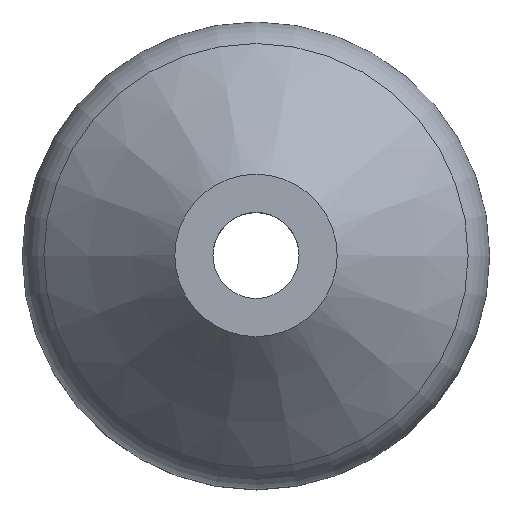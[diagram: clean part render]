
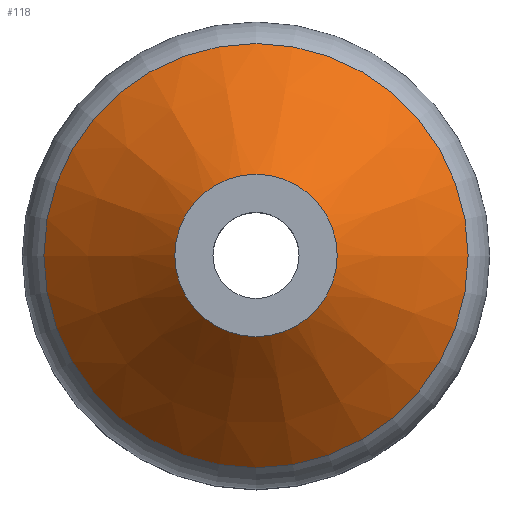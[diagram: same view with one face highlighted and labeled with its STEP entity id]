
A CAD part, top view. The second image highlights one B-rep face of the part: STEP entity #118.
In plain terms, the highlighted conical face has half-angle 45 degrees and reference radius 3.3 mm.
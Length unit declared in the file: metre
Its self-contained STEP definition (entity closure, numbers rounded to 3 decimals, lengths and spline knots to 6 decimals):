
#17=CONICAL_SURFACE('',#149,0.0033,0.785);
#31=ORIENTED_EDGE('',*,*,#47,.T.);
#32=ORIENTED_EDGE('',*,*,#46,.F.);
#46=EDGE_CURVE('',#56,#56,#66,.F.);
#47=EDGE_CURVE('',#57,#57,#67,.F.);
#56=VERTEX_POINT('',#219);
#57=VERTEX_POINT('',#222);
#66=CIRCLE('',#148,0.0033);
#67=CIRCLE('',#150,0.008621);
#81=EDGE_LOOP('',(#31));
#82=EDGE_LOOP('',(#32));
#101=FACE_BOUND('',#81,.T.);
#102=FACE_BOUND('',#82,.T.);
#118=ADVANCED_FACE('',(#101,#102),#17,.T.);
#148=AXIS2_PLACEMENT_3D('',#218,#183,#184);
#149=AXIS2_PLACEMENT_3D('',#220,#185,#186);
#150=AXIS2_PLACEMENT_3D('',#221,#187,#188);
#183=DIRECTION('',(0.,0.,-1.));
#184=DIRECTION('',(1.,0.,0.));
#185=DIRECTION('',(0.,0.,-1.));
#186=DIRECTION('',(1.,0.,0.));
#187=DIRECTION('',(0.,0.,-1.));
#188=DIRECTION('',(1.,0.,0.));
#218=CARTESIAN_POINT('',(-0.025907,0.001416,0.0258));
#219=CARTESIAN_POINT('',(-0.022607,0.001416,0.0258));
#220=CARTESIAN_POINT('',(-0.025907,0.001416,0.0258));
#221=CARTESIAN_POINT('',(-0.025907,0.001416,0.020479));
#222=CARTESIAN_POINT('',(-0.017286,0.001416,0.020479));
